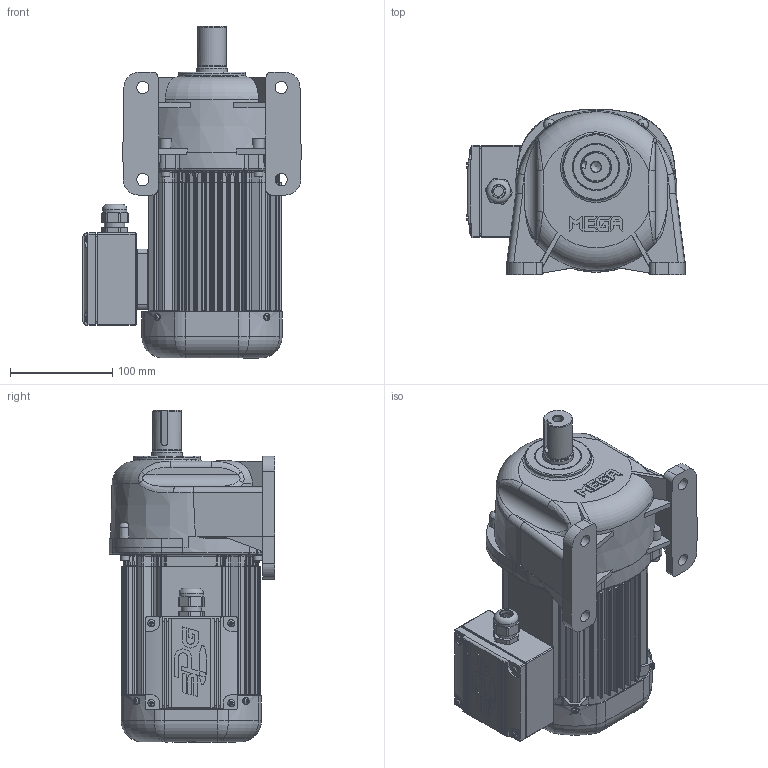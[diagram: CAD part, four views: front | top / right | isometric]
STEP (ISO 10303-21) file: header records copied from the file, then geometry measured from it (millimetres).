
FILE_DESCRIPTION(/* description */ (''),/* implementation_level */ '2;1');
FILE_NAME(/* name */ 'Z:\동력 3D 파일\PML105-(5~100)-MA(B)040[ ]L (마스터).stp',/* time_stamp */ '2021-07-14T17:45:23+09:00',/* author */ ('jaebok'),/* organization */ (''),/* preprocessor_version */ 'ST-DEVELOPER v18.1',/* originating_system */ 'Autodesk Inventor 2022',/* authorisation */ '');
FILE_SCHEMA (('AUTOMOTIVE_DESIGN { 1 0 10303 214 3 1 1 }'));
Length unit declared in the file: millimetre
Products named in the file (1): 부품3
Bounding box: 213 x 161.61 x 324 mm (x, y, z)
Volume: 1576303.3 mm3; surface area: 551655.1 mm2
Topology: 1 solids, 30 shells, 3205 faces, 8217 edges, 4888 vertices
Faces by surface type: plane 1060, cylinder 871, bspline 748, torus 302, cone 116, sphere 108
Full cylindrical faces by diameter (mm): 2 x1, 3.25 x1, 3.5 x4, 3.6 x4, 4 x21, 4.134 x4, 5 x19, 5.5 x4, 6 x5, 7 x12, 8 x5, 8.5 x4, 10 x2, 12 x4, 12.5 x1, 15 x1, 18 x1, 19 x2, 20 x2, 21 x1, 23.6 x1, 25 x1, 27.6 x1, 27.96 x1, 28 x1, 30 x6, 32 x1, 37 x2, 40 x2, 44 x1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
Entity records: 129720 total; most frequent: CARTESIAN_POINT 53259, ORIENTED_EDGE 15916, DIRECTION 14475, EDGE_CURVE 7958, AXIS2_PLACEMENT_3D 5780, VERTEX_POINT 4888, EDGE_LOOP 3387, STYLED_ITEM 3206
